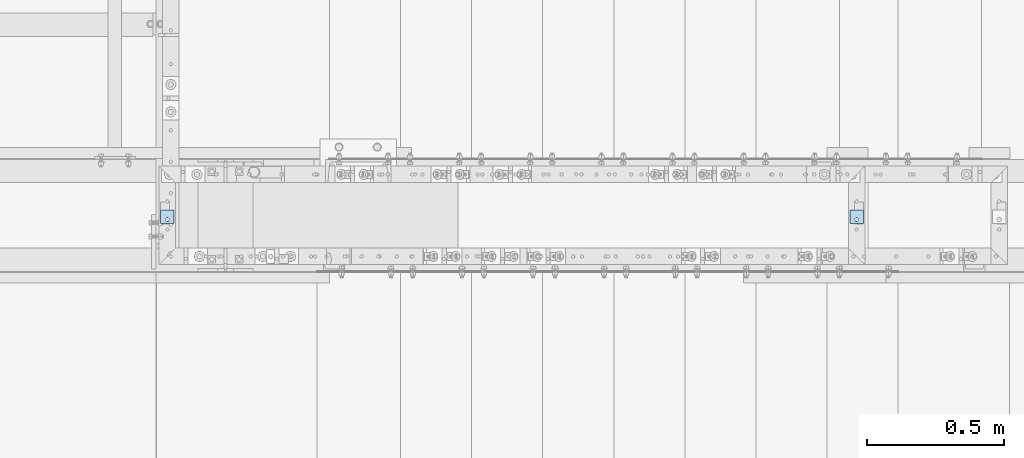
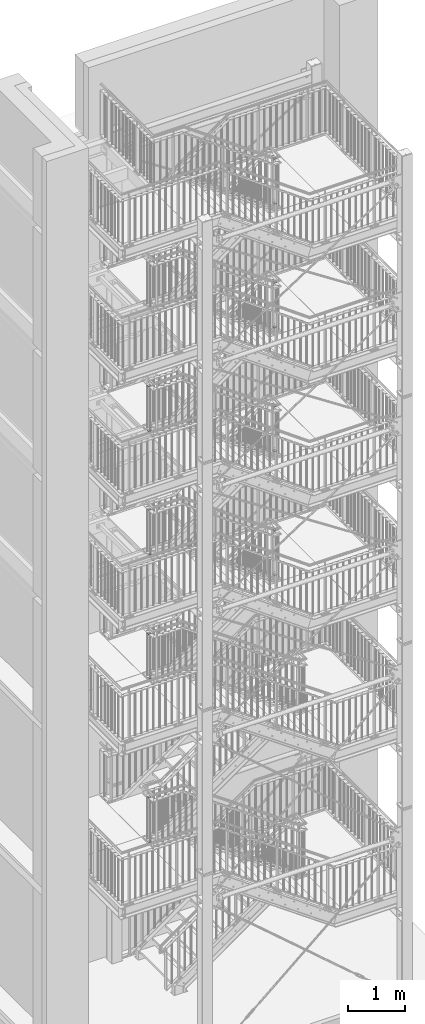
# One storey, part 223 of 821: 16 plates, 16 openings.
"""IFC2X3 building model written with IfcOpenShell, lengths in millimetres."""

import ifcopenshell
import ifcopenshell.guid

model = None  # the IFC model being written
_history = None  # IfcOwnerHistory: only IFC2X3 demands one
_inside = {}  # id of a spatial element -> (the spatial element, [elements in it])
_under = {}  # id of a project, library or spatial element -> (it, [spatial elements below it])
_declared = {}  # id of a project -> (the project, [libraries it declares])
_typed = {}  # id of a type object -> (the type object, [elements of that type])
_made_of = {}  # id of a material, layer set ... -> (it, [elements and type objects made of it])


def new_model(schema):
    """Start an empty IFC model of exactly this schema.

    Asked for "IFC4X3", IfcOpenShell would pick the latest addendum, in which some entities
    have other attributes; the version numbers below select the first issue.
    IFC2X3 requires an IfcOwnerHistory on every rooted entity: one is made here for all.
    """
    global model, _history
    if schema == "IFC4X3":
        model = ifcopenshell.file(schema_version=(4, 3, 0, 0))
    else:
        model = ifcopenshell.file(schema=schema)
    _inside.clear()
    _under.clear()
    _declared.clear()
    _typed.clear()
    _made_of.clear()
    _history = None
    if model.schema == "IFC2X3":
        org = make("IfcOrganization", Name="unknown")
        user = make(
            "IfcPersonAndOrganization",
            ThePerson=make("IfcPerson", FamilyName="unknown"),
            TheOrganization=org,
        )
        app = make(
            "IfcApplication",
            ApplicationDeveloper=org,
            Version="unknown",
            ApplicationFullName="unknown",
            ApplicationIdentifier="unknown",
        )
        _history = make(
            "IfcOwnerHistory",
            OwningUser=user,
            OwningApplication=app,
            ChangeAction="ADDED",
            CreationDate=0,
        )
    return model


def make(cls, **values):
    """One entity of the class cls with the attributes given. An attribute that is None is left unset."""
    return model.create_entity(
        cls, **{name: value for name, value in values.items() if value is not None}
    )


def entity(cls, *values):
    """Any entity or typed value of the class cls, its attributes in the order of the schema. None: left unset."""
    e = model.create_entity(cls)
    for i, value in enumerate(values):
        if value is not None:
            e[i] = value
    return e


def rooted(cls, **values):
    """An entity with a GlobalId (a new one), such as an element, a storey or a relation."""
    return make(cls, GlobalId=ifcopenshell.guid.new(), OwnerHistory=_history, **values)


def si_unit(unit_type, name, prefix=None):
    """IfcSIUnit, for example si_unit("LENGTHUNIT", "METRE", prefix="MILLI")."""
    return make("IfcSIUnit", UnitType=unit_type, Prefix=prefix, Name=name)


def converted_unit(unit_type, name, factor, base, dimensions=None, offset=None):
    """IfcConversionBasedUnit, such as the inch: factor (a typed value) times the base unit."""
    return make(
        "IfcConversionBasedUnit"
        if offset is None
        else "IfcConversionBasedUnitWithOffset",
        ConversionOffset=offset,
        Dimensions=None
        if dimensions is None
        else entity("IfcDimensionalExponents", *dimensions),
        UnitType=unit_type,
        Name=name,
        ConversionFactor=make(
            "IfcMeasureWithUnit", ValueComponent=factor, UnitComponent=base
        ),
    )


def assignment(units):
    """IfcUnitAssignment: the units of a project."""
    return None if units is None else make("IfcUnitAssignment", Units=units)


def point(xyz):
    """IfcCartesianPoint."""
    return None if xyz is None else make("IfcCartesianPoint", Coordinates=xyz)


def direction(xyz):
    """IfcDirection."""
    return None if xyz is None else make("IfcDirection", DirectionRatios=xyz)


def frame(location, z_axis=None, x_axis=None):
    """IfcAxis2Placement3D, a coordinate frame: its origin and axes. An axis left out is left unset."""
    return make(
        "IfcAxis2Placement3D",
        Location=point(location),
        Axis=direction(z_axis),
        RefDirection=direction(x_axis),
    )


def frame_2d(location, x_axis=None):
    """IfcAxis2Placement2D, a coordinate frame in the plane: its origin and x axis."""
    return make(
        "IfcAxis2Placement2D", Location=point(location), RefDirection=direction(x_axis)
    )


def origin():
    """The frame at (0, 0, 0) with its axes left unset."""
    return frame((0.0, 0.0, 0.0))


def origin_with_axes():
    """The frame at (0, 0, 0) with the z axis (0, 0, 1) and the x axis (1, 0, 0) written out."""
    return frame((0.0, 0.0, 0.0), z_axis=(0.0, 0.0, 1.0), x_axis=(1.0, 0.0, 0.0))


def place(relative_to, where):
    """IfcLocalPlacement: puts the frame where relative to a parent placement (None: the world)."""
    return make(
        "IfcLocalPlacement", PlacementRelTo=relative_to, RelativePlacement=where
    )


def context(
    kind, dimensions, precision=None, world=None, true_north=None, identifier=None
):
    """IfcGeometricRepresentationContext, for example the 3D "Model" context."""
    return make(
        "IfcGeometricRepresentationContext",
        ContextIdentifier=identifier,
        ContextType=kind,
        CoordinateSpaceDimension=dimensions,
        Precision=precision,
        WorldCoordinateSystem=world,
        TrueNorth=true_north,
    )


def project(units=None, contexts=None):
    """IfcProject with its units and contexts."""
    return rooted(
        "IfcProject",
        Name="project",
        RepresentationContexts=contexts,
        UnitsInContext=assignment(units),
    )


def spatial(cls, under=None, at=None, **own):
    """A site, building, storey or space (cls), placed at a placement, below another one or the project."""
    s = rooted(cls, ObjectPlacement=at, **own)
    if under is not None:
        _under.setdefault(under.id(), (under, []))[1].append(s)
    return s


def polyline(points):
    """IfcPolyline through the points."""
    return make("IfcPolyline", Points=[point(p) for p in points])


def circle_curve(where, radius):
    """IfcCircle in the frame where."""
    return make("IfcCircle", Position=where, Radius=radius)


def line_curve(start, along, magnitude):
    """IfcLine from a point along a vector."""
    return make(
        "IfcLine",
        Pnt=point(start),
        Dir=make("IfcVector", Orientation=direction(along), Magnitude=magnitude),
    )


def trimmed(basis, trim1, trim2, sense, master):
    """IfcTrimmedCurve: the piece of a basis curve between two trims."""
    return make(
        "IfcTrimmedCurve",
        BasisCurve=basis,
        Trim1=trim1,
        Trim2=trim2,
        SenseAgreement=sense,
        MasterRepresentation=master,
    )


def segment(curve, same_sense, transition):
    """IfcCompositeCurveSegment."""
    return make(
        "IfcCompositeCurveSegment",
        Transition=transition,
        SameSense=same_sense,
        ParentCurve=curve,
    )


def composite_curve(segments, self_intersect=None):
    """IfcCompositeCurve: segments joined end to end."""
    return make("IfcCompositeCurve", Segments=segments, SelfIntersect=self_intersect)


def outline(outer, holes=None, kind="AREA"):
    """IfcArbitraryClosedProfileDef: a profile drawn as a closed curve; with holes, ...WithVoids."""
    if holes is None:
        return make("IfcArbitraryClosedProfileDef", ProfileType=kind, OuterCurve=outer)
    return make(
        "IfcArbitraryProfileDefWithVoids",
        ProfileType=kind,
        OuterCurve=outer,
        InnerCurves=holes,
    )


def extrude(swept, where, along, depth):
    """IfcExtrudedAreaSolid: the profile swept, set in the frame where, extruded along a direction by depth."""
    return make(
        "IfcExtrudedAreaSolid",
        SweptArea=swept,
        Position=where,
        ExtrudedDirection=direction(along),
        Depth=depth,
    )


def shape(context_of_items, identifier, shape_type, items):
    """IfcShapeRepresentation: the items that make up one representation, for example the "Body"."""
    return make(
        "IfcShapeRepresentation",
        ContextOfItems=context_of_items,
        RepresentationIdentifier=identifier,
        RepresentationType=shape_type,
        Items=items,
    )


def material(Name=None, Category=None):
    """IfcMaterial."""
    return make("IfcMaterial", Name=Name, Category=Category)


def layer(
    of_material, thickness, ventilated=None, Name=None, Category=None, Priority=None
):
    """IfcMaterialLayer: one layer of a wall or slab, of a material (None: an air gap)."""
    return make(
        "IfcMaterialLayer",
        Material=of_material,
        LayerThickness=thickness,
        IsVentilated=ventilated,
        Name=Name,
        Category=Category,
        Priority=Priority,
    )


def layer_set(layers, Name=None):
    """IfcMaterialLayerSet."""
    return make("IfcMaterialLayerSet", MaterialLayers=layers, LayerSetName=Name)


def made_of(thing, what):
    """Note that an element or type object is made of a material, layer set ...; save() writes the relation."""
    if what is not None:
        _made_of.setdefault(what.id(), (what, []))[1].append(thing)
    return thing


def element(
    cls,
    number,
    at=None,
    inside=None,
    cuts=None,
    type_object=None,
    material=None,
    context=None,
    identifier="Body",
    shape_type=None,
    held_by="IfcProductDefinitionShape",
    body=None,
    shapes=None,
    **own,
):
    """One element of the class cls, such as IfcWall. Its Tag is "e" and its number.

    at: its placement. inside: the storey or other place that contains it. cuts: it is an
    opening in that element (IfcRelVoidsElement). A single representation is given by context,
    identifier, shape_type and body (its items); several are given by shapes. held_by: the class
    of the entity that holds the representations. save() writes the other relations.
    """
    e = rooted(cls, Tag="e%d" % number, ObjectPlacement=at, **own)
    if body is not None:
        shapes = [shape(context, identifier, shape_type, body)]
    if shapes is not None:
        e.Representation = make(held_by, Representations=shapes)
    if inside is not None:
        _inside.setdefault(inside.id(), (inside, []))[1].append(e)
    if cuts is not None:
        rooted(
            "IfcRelVoidsElement", RelatingBuildingElement=cuts, RelatedOpeningElement=e
        )
    if type_object is not None:
        _typed.setdefault(type_object.id(), (type_object, []))[1].append(e)
    return made_of(e, material)


def aggregate(whole, parts):
    """IfcRelAggregates: a whole, such as a stair, and the parts it consists of."""
    return rooted("IfcRelAggregates", RelatingObject=whole, RelatedObjects=parts)


def save(model, path):
    """Write the relations noted so far, then the file.

    IfcRelAggregates (storeys below a building ...), IfcRelContainedInSpatialStructure (elements
    in a storey), IfcRelDefinesByType, IfcRelAssociatesMaterial and IfcRelDeclares: one each for
    every whole, place, type object, material and project.
    """
    for whole, parts in _under.values():
        aggregate(whole, parts)
    for where, things in _inside.values():
        rooted(
            "IfcRelContainedInSpatialStructure",
            RelatedElements=things,
            RelatingStructure=where,
        )
    for kind, things in _typed.values():
        rooted("IfcRelDefinesByType", RelatedObjects=things, RelatingType=kind)
    for what, things in _made_of.values():
        rooted("IfcRelAssociatesMaterial", RelatedObjects=things, RelatingMaterial=what)
    for by, libraries in _declared.values():
        rooted("IfcRelDeclares", RelatingContext=by, RelatedDefinitions=libraries)
    model.write(path)


model = new_model("IFC2X3")

# Units and contexts
model_context = context("Model", 3, precision=1e-09, world=origin_with_axes())
ifc_project = project(units=[si_unit("LENGTHUNIT", "METRE", prefix="MILLI"), si_unit("AREAUNIT", "SQUARE_METRE"), si_unit("VOLUMEUNIT", "CUBIC_METRE"), converted_unit("PLANEANGLEUNIT", "DEGREE", entity("IfcPlaneAngleMeasure", 0.01745329), si_unit("PLANEANGLEUNIT", "RADIAN"), dimensions=[0, 0, 0, 0, 0, 0, 0])], contexts=[model_context])

# Site, building, storey
site_placement = place(None, origin_with_axes())
site = spatial("IfcSite", under=ifc_project, at=site_placement, Name="Cnopf'sche Kinderklinik", CompositionType="ELEMENT")
building_placement = place(site_placement, origin_with_axes())
building = spatial("IfcBuilding", under=site, at=building_placement, Name="Struktur 1", CompositionType="ELEMENT")
storey_placement = place(building_placement, origin_with_axes())
storey = spatial("IfcBuildingStorey", under=building, at=storey_placement, Name="Default Storey", CompositionType="ELEMENT", Elevation=0.0)

# Plate, opening
ifc_material = material(Name="S235JR")
ifc_layer = layer(ifc_material, 6.0)
ifc_layer_set = layer_set([ifc_layer], Name="S235JR")
plate_1_placement = place(None, frame((7164.822212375, 5936.736971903, 8690.0), z_axis=(0.0, 0.0, -1.0), x_axis=(0.0, -1.0, 0.0)))
plate_1 = element("IfcPlate", 1, at=plate_1_placement, inside=storey, material=ifc_layer_set, Name="-", ObjectType="-", context=model_context, shape_type="SweptSolid", body=[
    extrude(outline(polyline([(-25.0, -25.0), (25.0, -25.0), (25.0, 25.0), (-25.0, 25.0), (-25.0, -25.0)])), origin_with_axes(), (0.0, 0.0, -1.0), 6.0),
])
opening_1_placement = place(plate_1_placement, frame((7.499999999, -5.001, 0.5), z_axis=(0.0, 0.0, 1.0), x_axis=(1.0, 0.0, 0.0)))
element("IfcOpeningElement", 2, at=opening_1_placement, cuts=plate_1, ObjectType="Opening", context=model_context, shape_type="SweptSolid", body=[
    extrude(outline(composite_curve([segment(trimmed(line_curve((0.0, 0.0), (1.0, 0.0), 5.0), [point((0.0, 0.0))], [point((5.0, 0.0))], True, "CARTESIAN"), True, "CONTINUOUS"), segment(trimmed(circle_curve(frame_2d((5.0, 5.001), x_axis=(1.0, 0.0)), 5.001), [point((5.0, 0.0))], [point((5.0, 10.002))], True, "CARTESIAN"), True, "CONTINUOUS"), segment(trimmed(line_curve((5.0, 10.002), (-1.0, 0.0), 5.0), [point((5.0, 10.002))], [point((0.0, 10.002))], True, "CARTESIAN"), True, "CONTINUOUS"), segment(trimmed(circle_curve(frame_2d((0.0, 5.001), x_axis=(1.0, 0.0)), 5.001), [point((0.0, 10.002))], [point((0.0, 0.0))], True, "CARTESIAN"), True, "CONTINUOUS")], self_intersect=False)), origin(), (0.0, 0.0, -1.0), 7.0),
])

plate_2_placement = place(None, frame((7164.822212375, 5936.736971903, 9638.8), z_axis=(0.0, 0.0, -1.0), x_axis=(0.0, -1.0, 0.0)))
plate_2 = element("IfcPlate", 3, at=plate_2_placement, inside=storey, material=ifc_layer_set, Name="-", ObjectType="-", context=model_context, shape_type="SweptSolid", body=[
    extrude(outline(polyline([(-25.0, -25.0), (25.0, -25.0), (25.0, 25.0), (-25.0, 25.0), (-25.0, -25.0)])), origin_with_axes(), (0.0, 0.0, -1.0), 6.0),
])
opening_2_placement = place(plate_2_placement, frame((7.499999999, -5.001, 0.5), z_axis=(0.0, 0.0, 1.0), x_axis=(1.0, 0.0, 0.0)))
element("IfcOpeningElement", 4, at=opening_2_placement, cuts=plate_2, ObjectType="Opening", context=model_context, shape_type="SweptSolid", body=[
    extrude(outline(composite_curve([segment(trimmed(line_curve((0.0, 0.0), (1.0, 0.0), 5.0), [point((0.0, 0.0))], [point((5.0, 0.0))], True, "CARTESIAN"), True, "CONTINUOUS"), segment(trimmed(circle_curve(frame_2d((5.0, 5.001), x_axis=(1.0, 0.0)), 5.001), [point((5.0, 0.0))], [point((5.0, 10.002))], True, "CARTESIAN"), True, "CONTINUOUS"), segment(trimmed(line_curve((5.0, 10.002), (-1.0, 0.0), 5.0), [point((5.0, 10.002))], [point((0.0, 10.002))], True, "CARTESIAN"), True, "CONTINUOUS"), segment(trimmed(circle_curve(frame_2d((0.0, 5.001), x_axis=(1.0, 0.0)), 5.001), [point((0.0, 10.002))], [point((0.0, 0.0))], True, "CARTESIAN"), True, "CONTINUOUS")], self_intersect=False)), origin(), (0.0, 0.0, -1.0), 7.0),
])

plate_3_placement = place(None, frame((7164.822212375, 5936.736971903, 11319.5000003), z_axis=(0.0, 0.0, -1.0), x_axis=(0.0, -1.0, 0.0)))
plate_3 = element("IfcPlate", 5, at=plate_3_placement, inside=storey, material=ifc_layer_set, Name="-", ObjectType="-", context=model_context, shape_type="SweptSolid", body=[
    extrude(outline(polyline([(-25.0, -25.0), (25.0, -25.0), (25.0, 25.0), (-25.0, 25.0), (-25.0, -25.0)])), origin_with_axes(), (0.0, 0.0, -1.0), 6.0),
])
opening_3_placement = place(plate_3_placement, frame((7.499999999, -5.001, 0.5), z_axis=(0.0, 0.0, 1.0), x_axis=(1.0, 0.0, 0.0)))
element("IfcOpeningElement", 6, at=opening_3_placement, cuts=plate_3, ObjectType="Opening", context=model_context, shape_type="SweptSolid", body=[
    extrude(outline(composite_curve([segment(trimmed(line_curve((0.0, 0.0), (1.0, 0.0), 5.0), [point((0.0, 0.0))], [point((5.0, 0.0))], True, "CARTESIAN"), True, "CONTINUOUS"), segment(trimmed(circle_curve(frame_2d((5.0, 5.001), x_axis=(1.0, 0.0)), 5.001), [point((5.0, 0.0))], [point((5.0, 10.002))], True, "CARTESIAN"), True, "CONTINUOUS"), segment(trimmed(line_curve((5.0, 10.002), (-1.0, 0.0), 5.0), [point((5.0, 10.002))], [point((0.0, 10.002))], True, "CARTESIAN"), True, "CONTINUOUS"), segment(trimmed(circle_curve(frame_2d((0.0, 5.001), x_axis=(1.0, 0.0)), 5.001), [point((0.0, 10.002))], [point((0.0, 0.0))], True, "CARTESIAN"), True, "CONTINUOUS")], self_intersect=False)), origin(), (0.0, 0.0, -1.0), 7.0),
])

plate_4_placement = place(None, frame((7164.822212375, 5936.736971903, 12268.3000003), z_axis=(0.0, 0.0, -1.0), x_axis=(0.0, -1.0, 0.0)))
plate_4 = element("IfcPlate", 7, at=plate_4_placement, inside=storey, material=ifc_layer_set, Name="-", ObjectType="-", context=model_context, shape_type="SweptSolid", body=[
    extrude(outline(polyline([(-25.0, -25.0), (25.0, -25.0), (25.0, 25.0), (-25.0, 25.0), (-25.0, -25.0)])), origin_with_axes(), (0.0, 0.0, -1.0), 6.0),
])
opening_4_placement = place(plate_4_placement, frame((7.499999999, -5.001, 0.5), z_axis=(0.0, 0.0, 1.0), x_axis=(1.0, 0.0, 0.0)))
element("IfcOpeningElement", 8, at=opening_4_placement, cuts=plate_4, ObjectType="Opening", context=model_context, shape_type="SweptSolid", body=[
    extrude(outline(composite_curve([segment(trimmed(line_curve((0.0, 0.0), (1.0, 0.0), 5.0), [point((0.0, 0.0))], [point((5.0, 0.0))], True, "CARTESIAN"), True, "CONTINUOUS"), segment(trimmed(circle_curve(frame_2d((5.0, 5.001), x_axis=(1.0, 0.0)), 5.001), [point((5.0, 0.0))], [point((5.0, 10.002))], True, "CARTESIAN"), True, "CONTINUOUS"), segment(trimmed(line_curve((5.0, 10.002), (-1.0, 0.0), 5.0), [point((5.0, 10.002))], [point((0.0, 10.002))], True, "CARTESIAN"), True, "CONTINUOUS"), segment(trimmed(circle_curve(frame_2d((0.0, 5.001), x_axis=(1.0, 0.0)), 5.001), [point((0.0, 10.002))], [point((0.0, 0.0))], True, "CARTESIAN"), True, "CONTINUOUS")], self_intersect=False)), origin(), (0.0, 0.0, -1.0), 7.0),
])

plate_5_placement = place(None, frame((7164.822212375, 5936.736971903, 13950.5000001), z_axis=(0.0, 0.0, -1.0), x_axis=(0.0, -1.0, 0.0)))
plate_5 = element("IfcPlate", 9, at=plate_5_placement, inside=storey, material=ifc_layer_set, Name="-", ObjectType="-", context=model_context, shape_type="SweptSolid", body=[
    extrude(outline(polyline([(-25.0, -25.0), (25.0, -25.0), (25.0, 25.0), (-25.0, 25.0), (-25.0, -25.0)])), origin_with_axes(), (0.0, 0.0, -1.0), 6.0),
])
opening_5_placement = place(plate_5_placement, frame((7.499999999, -5.001, 0.5), z_axis=(0.0, 0.0, 1.0), x_axis=(1.0, 0.0, 0.0)))
element("IfcOpeningElement", 10, at=opening_5_placement, cuts=plate_5, ObjectType="Opening", context=model_context, shape_type="SweptSolid", body=[
    extrude(outline(composite_curve([segment(trimmed(line_curve((0.0, 0.0), (1.0, 0.0), 5.0), [point((0.0, 0.0))], [point((5.0, 0.0))], True, "CARTESIAN"), True, "CONTINUOUS"), segment(trimmed(circle_curve(frame_2d((5.0, 5.001), x_axis=(1.0, 0.0)), 5.001), [point((5.0, 0.0))], [point((5.0, 10.002))], True, "CARTESIAN"), True, "CONTINUOUS"), segment(trimmed(line_curve((5.0, 10.002), (-1.0, 0.0), 5.0), [point((5.0, 10.002))], [point((0.0, 10.002))], True, "CARTESIAN"), True, "CONTINUOUS"), segment(trimmed(circle_curve(frame_2d((0.0, 5.001), x_axis=(1.0, 0.0)), 5.001), [point((0.0, 10.002))], [point((0.0, 0.0))], True, "CARTESIAN"), True, "CONTINUOUS")], self_intersect=False)), origin(), (0.0, 0.0, -1.0), 7.0),
])

plate_6_placement = place(None, frame((7164.822212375, 5936.736971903, 14899.3000001), z_axis=(0.0, 0.0, -1.0), x_axis=(0.0, -1.0, 0.0)))
plate_6 = element("IfcPlate", 11, at=plate_6_placement, inside=storey, material=ifc_layer_set, Name="-", ObjectType="-", context=model_context, shape_type="SweptSolid", body=[
    extrude(outline(polyline([(-25.0, -25.0), (25.0, -25.0), (25.0, 25.0), (-25.0, 25.0), (-25.0, -25.0)])), origin_with_axes(), (0.0, 0.0, -1.0), 6.0),
])
opening_6_placement = place(plate_6_placement, frame((7.499999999, -5.001, 0.5), z_axis=(0.0, 0.0, 1.0), x_axis=(1.0, 0.0, 0.0)))
element("IfcOpeningElement", 12, at=opening_6_placement, cuts=plate_6, ObjectType="Opening", context=model_context, shape_type="SweptSolid", body=[
    extrude(outline(composite_curve([segment(trimmed(line_curve((0.0, 0.0), (1.0, 0.0), 5.0), [point((0.0, 0.0))], [point((5.0, 0.0))], True, "CARTESIAN"), True, "CONTINUOUS"), segment(trimmed(circle_curve(frame_2d((5.0, 5.001), x_axis=(1.0, 0.0)), 5.001), [point((5.0, 0.0))], [point((5.0, 10.002))], True, "CARTESIAN"), True, "CONTINUOUS"), segment(trimmed(line_curve((5.0, 10.002), (-1.0, 0.0), 5.0), [point((5.0, 10.002))], [point((0.0, 10.002))], True, "CARTESIAN"), True, "CONTINUOUS"), segment(trimmed(circle_curve(frame_2d((0.0, 5.001), x_axis=(1.0, 0.0)), 5.001), [point((0.0, 10.002))], [point((0.0, 0.0))], True, "CARTESIAN"), True, "CONTINUOUS")], self_intersect=False)), origin(), (0.0, 0.0, -1.0), 7.0),
])

plate_7_placement = place(None, frame((7164.822212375, 5936.736971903, 16578.0000003), z_axis=(0.0, 0.0, -1.0), x_axis=(0.0, -1.0, 0.0)))
plate_7 = element("IfcPlate", 13, at=plate_7_placement, inside=storey, material=ifc_layer_set, Name="-", ObjectType="-", context=model_context, shape_type="SweptSolid", body=[
    extrude(outline(polyline([(-25.0, -25.0), (25.0, -25.0), (25.0, 25.0), (-25.0, 25.0), (-25.0, -25.0)])), origin_with_axes(), (0.0, 0.0, -1.0), 6.0),
])
opening_7_placement = place(plate_7_placement, frame((7.499999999, -5.001, 0.5), z_axis=(0.0, 0.0, 1.0), x_axis=(1.0, 0.0, 0.0)))
element("IfcOpeningElement", 14, at=opening_7_placement, cuts=plate_7, ObjectType="Opening", context=model_context, shape_type="SweptSolid", body=[
    extrude(outline(composite_curve([segment(trimmed(line_curve((0.0, 0.0), (1.0, 0.0), 5.0), [point((0.0, 0.0))], [point((5.0, 0.0))], True, "CARTESIAN"), True, "CONTINUOUS"), segment(trimmed(circle_curve(frame_2d((5.0, 5.001), x_axis=(1.0, 0.0)), 5.001), [point((5.0, 0.0))], [point((5.0, 10.002))], True, "CARTESIAN"), True, "CONTINUOUS"), segment(trimmed(line_curve((5.0, 10.002), (-1.0, 0.0), 5.0), [point((5.0, 10.002))], [point((0.0, 10.002))], True, "CARTESIAN"), True, "CONTINUOUS"), segment(trimmed(circle_curve(frame_2d((0.0, 5.001), x_axis=(1.0, 0.0)), 5.001), [point((0.0, 10.002))], [point((0.0, 0.0))], True, "CARTESIAN"), True, "CONTINUOUS")], self_intersect=False)), origin(), (0.0, 0.0, -1.0), 7.0),
])

plate_8_placement = place(None, frame((7164.822212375, 5936.736971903, 17526.8000003), z_axis=(0.0, 0.0, -1.0), x_axis=(0.0, -1.0, 0.0)))
plate_8 = element("IfcPlate", 15, at=plate_8_placement, inside=storey, material=ifc_layer_set, Name="-", ObjectType="-", context=model_context, shape_type="SweptSolid", body=[
    extrude(outline(polyline([(-25.0, -25.0), (25.0, -25.0), (25.0, 25.0), (-25.0, 25.0), (-25.0, -25.0)])), origin_with_axes(), (0.0, 0.0, -1.0), 6.0),
])
opening_8_placement = place(plate_8_placement, frame((7.499999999, -5.001, 0.5), z_axis=(0.0, 0.0, 1.0), x_axis=(1.0, 0.0, 0.0)))
element("IfcOpeningElement", 16, at=opening_8_placement, cuts=plate_8, ObjectType="Opening", context=model_context, shape_type="SweptSolid", body=[
    extrude(outline(composite_curve([segment(trimmed(line_curve((0.0, 0.0), (1.0, 0.0), 5.0), [point((0.0, 0.0))], [point((5.0, 0.0))], True, "CARTESIAN"), True, "CONTINUOUS"), segment(trimmed(circle_curve(frame_2d((5.0, 5.001), x_axis=(1.0, 0.0)), 5.001), [point((5.0, 0.0))], [point((5.0, 10.002))], True, "CARTESIAN"), True, "CONTINUOUS"), segment(trimmed(line_curve((5.0, 10.002), (-1.0, 0.0), 5.0), [point((5.0, 10.002))], [point((0.0, 10.002))], True, "CARTESIAN"), True, "CONTINUOUS"), segment(trimmed(circle_curve(frame_2d((0.0, 5.001), x_axis=(1.0, 0.0)), 5.001), [point((0.0, 10.002))], [point((0.0, 0.0))], True, "CARTESIAN"), True, "CONTINUOUS")], self_intersect=False)), origin(), (0.0, 0.0, -1.0), 7.0),
])

plate_9_placement = place(None, frame((4644.213402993, 5936.736971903, 13581.8), z_axis=(0.0, 0.0, -1.0), x_axis=(0.0, -1.0, 0.0)))
plate_9 = element("IfcPlate", 17, at=plate_9_placement, inside=storey, material=ifc_layer_set, Name="-", ObjectType="-", context=model_context, shape_type="SweptSolid", body=[
    extrude(outline(polyline([(-25.0, -25.0), (25.0, -25.0), (25.0, 25.0), (-25.0, 25.0), (-25.0, -25.0)])), origin_with_axes(), (0.0, 0.0, -1.0), 6.0),
])
opening_9_placement = place(plate_9_placement, frame((7.499999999, -5.001, 0.5), z_axis=(0.0, 0.0, 1.0), x_axis=(1.0, 0.0, 0.0)))
element("IfcOpeningElement", 18, at=opening_9_placement, cuts=plate_9, ObjectType="Opening", context=model_context, shape_type="SweptSolid", body=[
    extrude(outline(composite_curve([segment(trimmed(line_curve((0.0, 0.0), (1.0, 0.0), 5.0), [point((0.0, 0.0))], [point((5.0, 0.0))], True, "CARTESIAN"), True, "CONTINUOUS"), segment(trimmed(circle_curve(frame_2d((5.0, 5.001), x_axis=(1.0, 0.0)), 5.001), [point((5.0, 0.0))], [point((5.0, 10.002))], True, "CARTESIAN"), True, "CONTINUOUS"), segment(trimmed(line_curve((5.0, 10.002), (-1.0, 0.0), 5.0), [point((5.0, 10.002))], [point((0.0, 10.002))], True, "CARTESIAN"), True, "CONTINUOUS"), segment(trimmed(circle_curve(frame_2d((0.0, 5.001), x_axis=(1.0, 0.0)), 5.001), [point((0.0, 10.002))], [point((0.0, 0.0))], True, "CARTESIAN"), True, "CONTINUOUS")], self_intersect=False)), origin(), (0.0, 0.0, -1.0), 7.0),
])

plate_10_placement = place(None, frame((4644.213402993, 5936.736971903, 12633.0), z_axis=(0.0, 0.0, -1.0), x_axis=(0.0, -1.0, 0.0)))
plate_10 = element("IfcPlate", 19, at=plate_10_placement, inside=storey, material=ifc_layer_set, Name="-", ObjectType="-", context=model_context, shape_type="SweptSolid", body=[
    extrude(outline(polyline([(-25.0, -25.0), (25.0, -25.0), (25.0, 25.0), (-25.0, 25.0), (-25.0, -25.0)])), origin_with_axes(), (0.0, 0.0, -1.0), 6.0),
])
opening_10_placement = place(plate_10_placement, frame((7.499999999, -5.001, 0.5), z_axis=(0.0, 0.0, 1.0), x_axis=(1.0, 0.0, 0.0)))
element("IfcOpeningElement", 20, at=opening_10_placement, cuts=plate_10, ObjectType="Opening", context=model_context, shape_type="SweptSolid", body=[
    extrude(outline(composite_curve([segment(trimmed(line_curve((0.0, 0.0), (1.0, 0.0), 5.0), [point((0.0, 0.0))], [point((5.0, 0.0))], True, "CARTESIAN"), True, "CONTINUOUS"), segment(trimmed(circle_curve(frame_2d((5.0, 5.001), x_axis=(1.0, 0.0)), 5.001), [point((5.0, 0.0))], [point((5.0, 10.002))], True, "CARTESIAN"), True, "CONTINUOUS"), segment(trimmed(line_curve((5.0, 10.002), (-1.0, 0.0), 5.0), [point((5.0, 10.002))], [point((0.0, 10.002))], True, "CARTESIAN"), True, "CONTINUOUS"), segment(trimmed(circle_curve(frame_2d((0.0, 5.001), x_axis=(1.0, 0.0)), 5.001), [point((0.0, 10.002))], [point((0.0, 0.0))], True, "CARTESIAN"), True, "CONTINUOUS")], self_intersect=False)), origin(), (0.0, 0.0, -1.0), 7.0),
])

plate_11_placement = place(None, frame((4644.213402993, 5936.736971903, 10954.8), z_axis=(0.0, 0.0, -1.0), x_axis=(0.0, -1.0, 0.0)))
plate_11 = element("IfcPlate", 21, at=plate_11_placement, inside=storey, material=ifc_layer_set, Name="-", ObjectType="-", context=model_context, shape_type="SweptSolid", body=[
    extrude(outline(polyline([(-25.0, -25.0), (25.0, -25.0), (25.0, 25.0), (-25.0, 25.0), (-25.0, -25.0)])), origin_with_axes(), (0.0, 0.0, -1.0), 6.0),
])
opening_11_placement = place(plate_11_placement, frame((7.499999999, -5.001, 0.5), z_axis=(0.0, 0.0, 1.0), x_axis=(1.0, 0.0, 0.0)))
element("IfcOpeningElement", 22, at=opening_11_placement, cuts=plate_11, ObjectType="Opening", context=model_context, shape_type="SweptSolid", body=[
    extrude(outline(composite_curve([segment(trimmed(line_curve((0.0, 0.0), (1.0, 0.0), 5.0), [point((0.0, 0.0))], [point((5.0, 0.0))], True, "CARTESIAN"), True, "CONTINUOUS"), segment(trimmed(circle_curve(frame_2d((5.0, 5.001), x_axis=(1.0, 0.0)), 5.001), [point((5.0, 0.0))], [point((5.0, 10.002))], True, "CARTESIAN"), True, "CONTINUOUS"), segment(trimmed(line_curve((5.0, 10.002), (-1.0, 0.0), 5.0), [point((5.0, 10.002))], [point((0.0, 10.002))], True, "CARTESIAN"), True, "CONTINUOUS"), segment(trimmed(circle_curve(frame_2d((0.0, 5.001), x_axis=(1.0, 0.0)), 5.001), [point((0.0, 10.002))], [point((0.0, 0.0))], True, "CARTESIAN"), True, "CONTINUOUS")], self_intersect=False)), origin(), (0.0, 0.0, -1.0), 7.0),
])

plate_12_placement = place(None, frame((4644.213402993, 5936.736971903, 10006.0), z_axis=(0.0, 0.0, -1.0), x_axis=(0.0, -1.0, 0.0)))
plate_12 = element("IfcPlate", 23, at=plate_12_placement, inside=storey, material=ifc_layer_set, Name="-", ObjectType="-", context=model_context, shape_type="SweptSolid", body=[
    extrude(outline(polyline([(-25.0, -25.0), (25.0, -25.0), (25.0, 25.0), (-25.0, 25.0), (-25.0, -25.0)])), origin_with_axes(), (0.0, 0.0, -1.0), 6.0),
])
opening_12_placement = place(plate_12_placement, frame((7.499999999, -5.001, 0.5), z_axis=(0.0, 0.0, 1.0), x_axis=(1.0, 0.0, 0.0)))
element("IfcOpeningElement", 24, at=opening_12_placement, cuts=plate_12, ObjectType="Opening", context=model_context, shape_type="SweptSolid", body=[
    extrude(outline(composite_curve([segment(trimmed(line_curve((0.0, 0.0), (1.0, 0.0), 5.0), [point((0.0, 0.0))], [point((5.0, 0.0))], True, "CARTESIAN"), True, "CONTINUOUS"), segment(trimmed(circle_curve(frame_2d((5.0, 5.001), x_axis=(1.0, 0.0)), 5.001), [point((5.0, 0.0))], [point((5.0, 10.002))], True, "CARTESIAN"), True, "CONTINUOUS"), segment(trimmed(line_curve((5.0, 10.002), (-1.0, 0.0), 5.0), [point((5.0, 10.002))], [point((0.0, 10.002))], True, "CARTESIAN"), True, "CONTINUOUS"), segment(trimmed(circle_curve(frame_2d((0.0, 5.001), x_axis=(1.0, 0.0)), 5.001), [point((0.0, 10.002))], [point((0.0, 0.0))], True, "CARTESIAN"), True, "CONTINUOUS")], self_intersect=False)), origin(), (0.0, 0.0, -1.0), 7.0),
])

plate_13_placement = place(None, frame((4644.213402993, 5936.736971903, 8322.8), z_axis=(0.0, 0.0, -1.0), x_axis=(0.0, -1.0, 0.0)))
plate_13 = element("IfcPlate", 25, at=plate_13_placement, inside=storey, material=ifc_layer_set, Name="-", ObjectType="-", context=model_context, shape_type="SweptSolid", body=[
    extrude(outline(polyline([(-25.0, -25.0), (25.0, -25.0), (25.0, 25.0), (-25.0, 25.0), (-25.0, -25.0)])), origin_with_axes(), (0.0, 0.0, -1.0), 6.0),
])
opening_13_placement = place(plate_13_placement, frame((7.499999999, -5.001, 0.5), z_axis=(0.0, 0.0, 1.0), x_axis=(1.0, 0.0, 0.0)))
element("IfcOpeningElement", 26, at=opening_13_placement, cuts=plate_13, ObjectType="Opening", context=model_context, shape_type="SweptSolid", body=[
    extrude(outline(composite_curve([segment(trimmed(line_curve((0.0, 0.0), (1.0, 0.0), 5.0), [point((0.0, 0.0))], [point((5.0, 0.0))], True, "CARTESIAN"), True, "CONTINUOUS"), segment(trimmed(circle_curve(frame_2d((5.0, 5.001), x_axis=(1.0, 0.0)), 5.001), [point((5.0, 0.0))], [point((5.0, 10.002))], True, "CARTESIAN"), True, "CONTINUOUS"), segment(trimmed(line_curve((5.0, 10.002), (-1.0, 0.0), 5.0), [point((5.0, 10.002))], [point((0.0, 10.002))], True, "CARTESIAN"), True, "CONTINUOUS"), segment(trimmed(circle_curve(frame_2d((0.0, 5.001), x_axis=(1.0, 0.0)), 5.001), [point((0.0, 10.002))], [point((0.0, 0.0))], True, "CARTESIAN"), True, "CONTINUOUS")], self_intersect=False)), origin(), (0.0, 0.0, -1.0), 7.0),
])

plate_14_placement = place(None, frame((4644.213402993, 5936.736971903, 7374.0), z_axis=(0.0, 0.0, -1.0), x_axis=(0.0, -1.0, 0.0)))
plate_14 = element("IfcPlate", 27, at=plate_14_placement, inside=storey, material=ifc_layer_set, Name="-", ObjectType="-", context=model_context, shape_type="SweptSolid", body=[
    extrude(outline(polyline([(-25.0, -25.0), (25.0, -25.0), (25.0, 25.0), (-25.0, 25.0), (-25.0, -25.0)])), origin_with_axes(), (0.0, 0.0, -1.0), 6.0),
])
opening_14_placement = place(plate_14_placement, frame((7.499999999, -5.001, 0.5), z_axis=(0.0, 0.0, 1.0), x_axis=(1.0, 0.0, 0.0)))
element("IfcOpeningElement", 28, at=opening_14_placement, cuts=plate_14, ObjectType="Opening", context=model_context, shape_type="SweptSolid", body=[
    extrude(outline(composite_curve([segment(trimmed(line_curve((0.0, 0.0), (1.0, 0.0), 5.0), [point((0.0, 0.0))], [point((5.0, 0.0))], True, "CARTESIAN"), True, "CONTINUOUS"), segment(trimmed(circle_curve(frame_2d((5.0, 5.001), x_axis=(1.0, 0.0)), 5.001), [point((5.0, 0.0))], [point((5.0, 10.002))], True, "CARTESIAN"), True, "CONTINUOUS"), segment(trimmed(line_curve((5.0, 10.002), (-1.0, 0.0), 5.0), [point((5.0, 10.002))], [point((0.0, 10.002))], True, "CARTESIAN"), True, "CONTINUOUS"), segment(trimmed(circle_curve(frame_2d((0.0, 5.001), x_axis=(1.0, 0.0)), 5.001), [point((0.0, 10.002))], [point((0.0, 0.0))], True, "CARTESIAN"), True, "CONTINUOUS")], self_intersect=False)), origin(), (0.0, 0.0, -1.0), 7.0),
])

plate_15_placement = place(None, frame((4644.213402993, 5936.736971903, 4849.8), z_axis=(0.0, 0.0, -1.0), x_axis=(0.0, -1.0, 0.0)))
plate_15 = element("IfcPlate", 29, at=plate_15_placement, inside=storey, material=ifc_layer_set, Name="-", ObjectType="-", context=model_context, shape_type="SweptSolid", body=[
    extrude(outline(polyline([(-25.0, -25.0), (25.0, -25.0), (25.0, 25.0), (-25.0, 25.0), (-25.0, -25.0)])), origin_with_axes(), (0.0, 0.0, -1.0), 6.0),
])
opening_15_placement = place(plate_15_placement, frame((7.499999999, -5.001, 0.5), z_axis=(0.0, 0.0, 1.0), x_axis=(1.0, 0.0, 0.0)))
element("IfcOpeningElement", 30, at=opening_15_placement, cuts=plate_15, ObjectType="Opening", context=model_context, shape_type="SweptSolid", body=[
    extrude(outline(composite_curve([segment(trimmed(line_curve((0.0, 0.0), (1.0, 0.0), 5.0), [point((0.0, 0.0))], [point((5.0, 0.0))], True, "CARTESIAN"), True, "CONTINUOUS"), segment(trimmed(circle_curve(frame_2d((5.0, 5.001), x_axis=(1.0, 0.0)), 5.001), [point((5.0, 0.0))], [point((5.0, 10.002))], True, "CARTESIAN"), True, "CONTINUOUS"), segment(trimmed(line_curve((5.0, 10.002), (-1.0, 0.0), 5.0), [point((5.0, 10.002))], [point((0.0, 10.002))], True, "CARTESIAN"), True, "CONTINUOUS"), segment(trimmed(circle_curve(frame_2d((0.0, 5.001), x_axis=(1.0, 0.0)), 5.001), [point((0.0, 10.002))], [point((0.0, 0.0))], True, "CARTESIAN"), True, "CONTINUOUS")], self_intersect=False)), origin(), (0.0, 0.0, -1.0), 7.0),
])

plate_16_placement = place(None, frame((4644.213402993, 5936.736971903, 3901.0), z_axis=(0.0, 0.0, -1.0), x_axis=(0.0, -1.0, 0.0)))
plate_16 = element("IfcPlate", 31, at=plate_16_placement, inside=storey, material=ifc_layer_set, Name="-", ObjectType="-", context=model_context, shape_type="SweptSolid", body=[
    extrude(outline(polyline([(-25.0, -25.0), (25.0, -25.0), (25.0, 25.0), (-25.0, 25.0), (-25.0, -25.0)])), origin_with_axes(), (0.0, 0.0, -1.0), 6.0),
])
opening_16_placement = place(plate_16_placement, frame((7.499999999, -5.001, 0.5), z_axis=(0.0, 0.0, 1.0), x_axis=(1.0, 0.0, 0.0)))
element("IfcOpeningElement", 32, at=opening_16_placement, cuts=plate_16, ObjectType="Opening", context=model_context, shape_type="SweptSolid", body=[
    extrude(outline(composite_curve([segment(trimmed(line_curve((0.0, 0.0), (1.0, 0.0), 5.0), [point((0.0, 0.0))], [point((5.0, 0.0))], True, "CARTESIAN"), True, "CONTINUOUS"), segment(trimmed(circle_curve(frame_2d((5.0, 5.001), x_axis=(1.0, 0.0)), 5.001), [point((5.0, 0.0))], [point((5.0, 10.002))], True, "CARTESIAN"), True, "CONTINUOUS"), segment(trimmed(line_curve((5.0, 10.002), (-1.0, 0.0), 5.0), [point((5.0, 10.002))], [point((0.0, 10.002))], True, "CARTESIAN"), True, "CONTINUOUS"), segment(trimmed(circle_curve(frame_2d((0.0, 5.001), x_axis=(1.0, 0.0)), 5.001), [point((0.0, 10.002))], [point((0.0, 0.0))], True, "CARTESIAN"), True, "CONTINUOUS")], self_intersect=False)), origin(), (0.0, 0.0, -1.0), 7.0),
])

save(model, "model.ifc")
